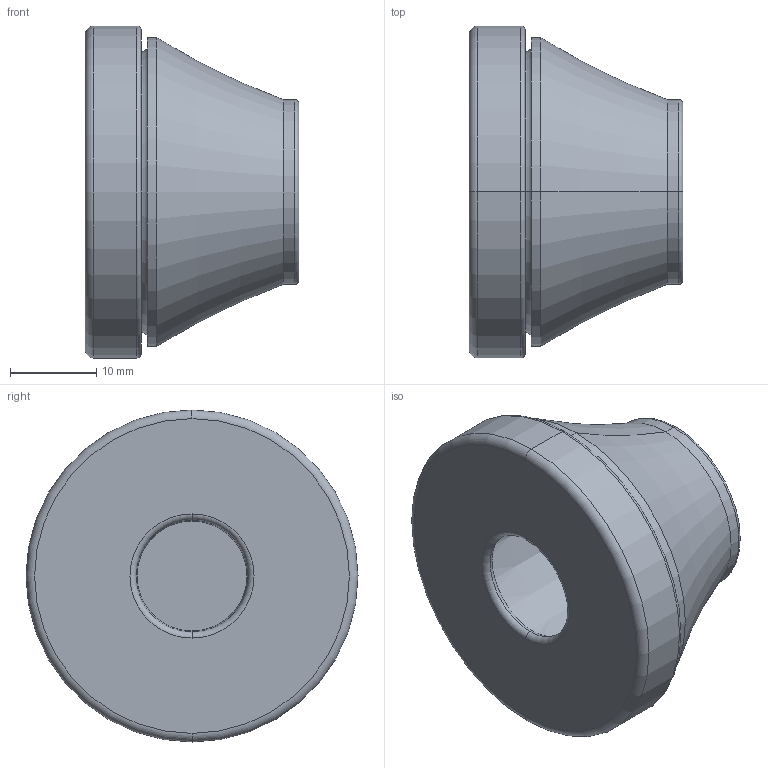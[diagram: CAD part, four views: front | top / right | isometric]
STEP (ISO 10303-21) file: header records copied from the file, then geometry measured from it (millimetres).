
FILE_DESCRIPTION (( 'STEP AP203' ), '1' );
FILE_NAME ('1458307-tst.step', '2007-10-25T07:21:33', ( 'Gustaf Hederström' ), ( 'Cevican AB' ), 'SwSTEP 2.0', 'SolidWorks 2002308', '' );
FILE_SCHEMA (( 'CONFIG_CONTROL_DESIGN' ));
Length unit declared in the file: millimetre
Products named in the file (1): 1458307-tst
Bounding box: 24.8 x 38.5 x 38.5 mm (x, y, z)
Volume: 11237.9 mm3; surface area: 6833.7 mm2
Topology: 1 solids, 1 shells, 54 faces, 106 edges, 58 vertices
Faces by surface type: torus 26, cone 16, plane 6, cylinder 6
Entity records: 1467 total; most frequent: DIRECTION 300, CARTESIAN_POINT 219, ORIENTED_EDGE 212, AXIS2_PLACEMENT_3D 139, EDGE_CURVE 106, CIRCLE 84, VERTEX_POINT 58, EDGE_LOOP 58
